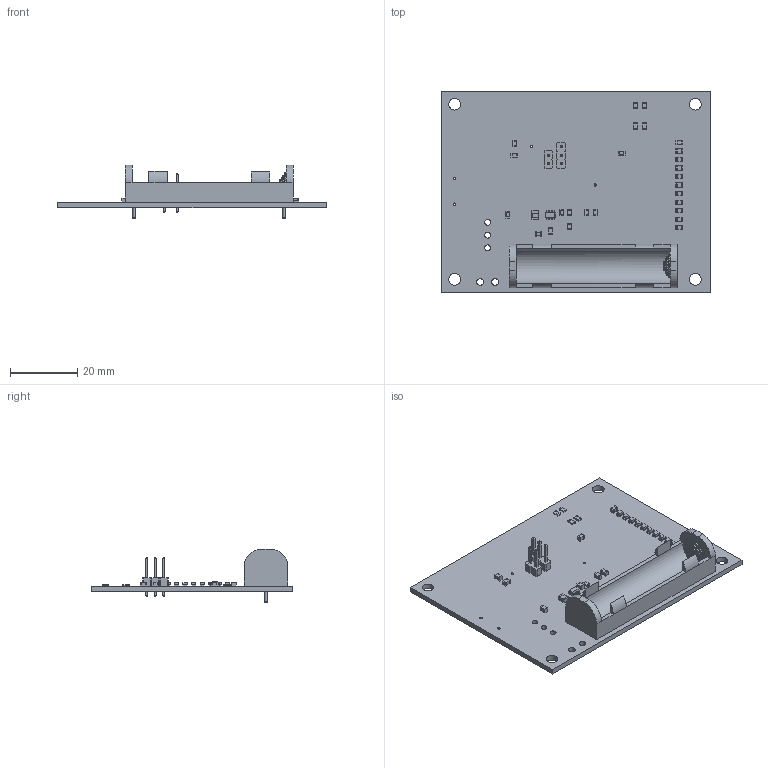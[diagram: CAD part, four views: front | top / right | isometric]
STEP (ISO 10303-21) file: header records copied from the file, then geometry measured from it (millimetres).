
FILE_DESCRIPTION(('KiCad electronic assembly'),'2;1');
FILE_NAME('Simma_Sch_ffmann_BaroSense.step','2024-10-17T09:23:38',( 'Pcbnew'),('Kicad'),'Open CASCADE STEP processor 7.8', 'KiCad to STEP converter','Unknown');
FILE_SCHEMA(('AUTOMOTIVE_DESIGN { 1 0 10303 214 1 1 1 1 }'));
Length unit declared in the file: millimetre
Products named in the file (18): Simma_Sch_ffmann_BaroSense 1; R_0805_2012Metric; C_0805_2012Metric; LED_0805_2012Metric; L_1008_2520Metric; BatteryHolder_Keystone_2466_1xAAA; Keystone_2466_1xAAA; PinHeader_1x03_P2.54mm_Vertical; PinHeader_1x03_P254mm_Vertical; PinHeader_1x02_P2.54mm_Vertical; PinHeader_1x02_P254mm_Vertical; SOT-23-6; SOT_23_6; _autosave-Simma_SchÃ¶ffmann_BaroSense_PCB
Assembly tree (40 placements, depth 3):
  Simma_Sch_ffmann_BaroSense 1
    R_0805_2012Metric  x7
      R_0805_2012Metric
    C_0805_2012Metric  x9
      C_0805_2012Metric
    LED_0805_2012Metric  x10
      LED_0805_2012Metric
    L_1008_2520Metric
      L_1008_2520Metric
    BatteryHolder_Keystone_2466_1xAAA
      Keystone_2466_1xAAA
    PinHeader_1x03_P2.54mm_Vertical
      PinHeader_1x03_P254mm_Vertical
    PinHeader_1x02_P2.54mm_Vertical
      PinHeader_1x02_P254mm_Vertical
    SOT-23-6
      SOT_23_6
    _autosave-Simma_SchÃ¶ffmann_BaroSense_PCB
Bounding box: 80 x 60 x 16 mm (x, y, z)
Volume: 9659.8 mm3; surface area: 13644.7 mm2
Topology: 37 solids, 37 shells, 1304 faces, 3361 edges, 2172 vertices
Faces by surface type: plane 952, cylinder 320, bspline 30, revolution 2
Full cylindrical faces by diameter (mm): 0.02 x1, 0.7 x2, 0.762 x2, 0.8 x2, 1 x5, 1.02 x2, 1.4 x1, 1.778 x3, 2.032 x2, 2.8 x2, 3.5 x4, 4.2 x2, 5.6 x2, 7 x1
Entity records: 17514 total; most frequent: CARTESIAN_POINT 2577, ORIENTED_EDGE 2352, DIRECTION 2334, EDGE_CURVE 1176, LINE 922, VECTOR 922, VERTEX_POINT 750, AXIS2_PLACEMENT_3D 705
